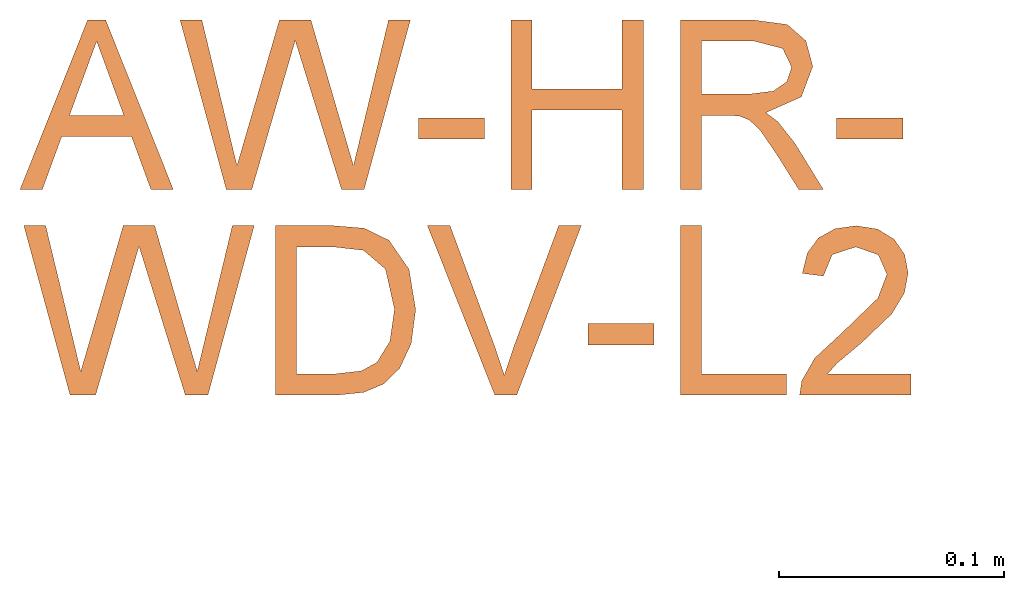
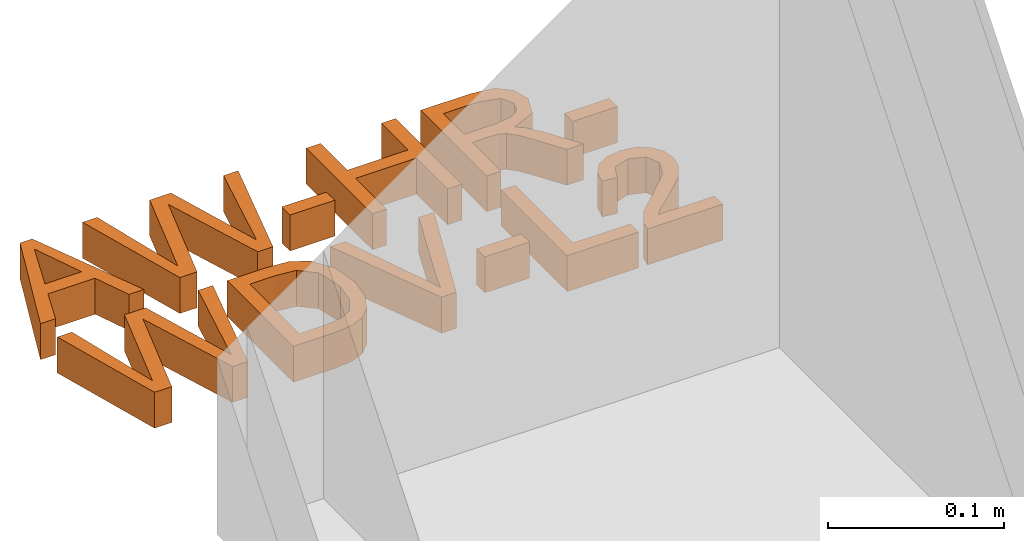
# Not in any storey, part 2 of 2: 1 proxy.
"""IFC4 model written with IfcOpenShell, lengths in metres."""

from ifc_helpers import new_model, entity, si_unit, converted_unit, derived_unit, direction, frame, origin, place, context, subcontext, project, spatial, indexed_curve, outline, extrude, type_object, element, save


model = new_model("IFC4")

# Units and contexts
model_context = context("Model", 3, precision=1e-05, world=origin(), true_north=direction((6.123031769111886e-17, 1.0)))
body_context = subcontext(model_context, "Body", "Model", "MODEL_VIEW")
ifc_project = project(units=[si_unit("LENGTHUNIT", "METRE"), si_unit("AREAUNIT", "SQUARE_METRE"), si_unit("VOLUMEUNIT", "CUBIC_METRE"), converted_unit("PLANEANGLEUNIT", "DEGREE", entity("IfcRatioMeasure", 0.017453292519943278), si_unit("PLANEANGLEUNIT", "RADIAN"), dimensions=[0, 0, 0, 0, 0, 0, 0]), si_unit("MASSUNIT", "GRAM", prefix="KILO"), derived_unit("MASSDENSITYUNIT", [(si_unit("MASSUNIT", "GRAM", prefix="KILO"), 1), (si_unit("LENGTHUNIT", "METRE"), -3)]), derived_unit("IONCONCENTRATIONUNIT", [(si_unit("MASSUNIT", "GRAM", prefix="KILO"), 1), (si_unit("LENGTHUNIT", "METRE"), -3)]), derived_unit("MOMENTOFINERTIAUNIT", [(si_unit("LENGTHUNIT", "METRE"), 4)]), si_unit("TIMEUNIT", "SECOND"), si_unit("FREQUENCYUNIT", "HERTZ"), si_unit("THERMODYNAMICTEMPERATUREUNIT", "DEGREE_CELSIUS"), derived_unit("THERMALTRANSMITTANCEUNIT", [(si_unit("MASSUNIT", "GRAM", prefix="KILO"), 1), (si_unit("THERMODYNAMICTEMPERATUREUNIT", "KELVIN"), -1), (si_unit("TIMEUNIT", "SECOND"), -3)]), derived_unit("THERMALCONDUCTANCEUNIT", [(si_unit("MASSUNIT", "GRAM", prefix="KILO"), 1), (si_unit("THERMODYNAMICTEMPERATUREUNIT", "KELVIN"), -1), (si_unit("TIMEUNIT", "SECOND"), -3), (si_unit("LENGTHUNIT", "METRE"), 1)]), derived_unit("VOLUMETRICFLOWRATEUNIT", [(si_unit("LENGTHUNIT", "METRE"), 3), (si_unit("TIMEUNIT", "SECOND"), -1)]), derived_unit("MASSFLOWRATEUNIT", [(si_unit("MASSUNIT", "GRAM", prefix="KILO"), 1), (si_unit("TIMEUNIT", "SECOND"), -1)]), derived_unit("ROTATIONALFREQUENCYUNIT", [(si_unit("TIMEUNIT", "SECOND"), -1)]), si_unit("ELECTRICCURRENTUNIT", "AMPERE"), si_unit("ELECTRICVOLTAGEUNIT", "VOLT"), si_unit("POWERUNIT", "WATT"), si_unit("FORCEUNIT", "NEWTON", prefix="KILO"), si_unit("ILLUMINANCEUNIT", "LUX"), si_unit("LUMINOUSFLUXUNIT", "LUMEN"), si_unit("LUMINOUSINTENSITYUNIT", "CANDELA"), derived_unit("USERDEFINED", [(si_unit("MASSUNIT", "GRAM", prefix="KILO"), -1), (si_unit("LENGTHUNIT", "METRE"), -2), (si_unit("TIMEUNIT", "SECOND"), 3), (si_unit("LUMINOUSFLUXUNIT", "LUMEN"), 1)]), derived_unit("USERDEFINED", [(si_unit("MASSUNIT", "GRAM", prefix="KILO"), 1), (si_unit("TIMEUNIT", "SECOND"), -3), (si_unit("LENGTHUNIT", "METRE"), 3), (si_unit("ELECTRICCURRENTUNIT", "AMPERE"), -2)]), derived_unit("SOUNDPOWERUNIT", [(si_unit("MASSUNIT", "GRAM", prefix="KILO"), 1), (si_unit("TIMEUNIT", "SECOND"), -3), (si_unit("LENGTHUNIT", "METRE"), 2)]), derived_unit("SOUNDPRESSUREUNIT", [(si_unit("MASSUNIT", "GRAM", prefix="KILO"), 1), (si_unit("LENGTHUNIT", "METRE"), -1), (si_unit("TIMEUNIT", "SECOND"), -2)]), derived_unit("LINEARVELOCITYUNIT", [(si_unit("LENGTHUNIT", "METRE"), 1), (si_unit("TIMEUNIT", "SECOND"), -1)]), si_unit("PRESSUREUNIT", "PASCAL"), derived_unit("USERDEFINED", [(si_unit("MASSUNIT", "GRAM", prefix="KILO"), 1), (si_unit("LENGTHUNIT", "METRE"), -2), (si_unit("TIMEUNIT", "SECOND"), -2)]), derived_unit("LINEARFORCEUNIT", [(si_unit("MASSUNIT", "GRAM", prefix="KILO"), 1), (si_unit("TIMEUNIT", "SECOND"), -2)]), derived_unit("PLANARFORCEUNIT", [(si_unit("MASSUNIT", "GRAM", prefix="KILO"), 1), (si_unit("LENGTHUNIT", "METRE"), -1), (si_unit("TIMEUNIT", "SECOND"), -2)]), derived_unit("SPECIFICHEATCAPACITYUNIT", [(si_unit("THERMODYNAMICTEMPERATUREUNIT", "KELVIN"), -1), (si_unit("LENGTHUNIT", "METRE"), 2), (si_unit("TIMEUNIT", "SECOND"), -2)]), derived_unit("HEATINGVALUEUNIT", [(si_unit("LENGTHUNIT", "METRE"), 2), (si_unit("TIMEUNIT", "SECOND"), -2)]), derived_unit("VAPORPERMEABILITYUNIT", [(si_unit("LENGTHUNIT", "METRE"), -1), (si_unit("TIMEUNIT", "SECOND"), 1)]), derived_unit("DYNAMICVISCOSITYUNIT", [(si_unit("MASSUNIT", "GRAM", prefix="KILO"), 1), (si_unit("TIMEUNIT", "SECOND"), -1), (si_unit("LENGTHUNIT", "METRE"), -1)]), derived_unit("THERMALEXPANSIONCOEFFICIENTUNIT", [(si_unit("THERMODYNAMICTEMPERATUREUNIT", "KELVIN"), -1)]), derived_unit("MODULUSOFELASTICITYUNIT", [(si_unit("MASSUNIT", "GRAM", prefix="KILO"), 1), (si_unit("LENGTHUNIT", "METRE"), -1), (si_unit("TIMEUNIT", "SECOND"), -2)]), derived_unit("ISOTHERMALMOISTURECAPACITYUNIT", [(si_unit("LENGTHUNIT", "METRE"), 3), (si_unit("MASSUNIT", "GRAM", prefix="KILO"), -1)]), derived_unit("MOISTUREDIFFUSIVITYUNIT", [(si_unit("TIMEUNIT", "SECOND"), -1), (si_unit("LENGTHUNIT", "METRE"), 2)])], contexts=[model_context])

# Site
site_placement = place(None, origin())
site = spatial("IfcSite", under=ifc_project, at=site_placement, Name="Default", CompositionType="ELEMENT")

# Proxy
building_element_proxy_type = type_object("IfcBuildingElementProxyType", Name="Modelltext:075mm Arial", PredefinedType="NOTDEFINED")
proxy_placement = place(site_placement, origin())
element("IfcBuildingElementProxy", 1, at=proxy_placement, inside=site, type_object=building_element_proxy_type, Name="Modelltext:075mm Arial", ObjectType="Modelltext:075mm Arial", PredefinedType="NOTDEFINED", context=body_context, shape_type="SweptSolid", body=[
    extrude(outline(indexed_curve([(-0.03408196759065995, -0.02472167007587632), (-0.0241307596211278, -0.02472167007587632), (-0.015522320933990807, -0.0011772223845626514), (0.015508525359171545, -0.0011772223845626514), (0.02413535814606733, -0.02472167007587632), (0.03408656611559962, -0.02472167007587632), (0.004012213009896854, 0.05062056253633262), (-0.0040076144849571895, 0.05062056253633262), (-0.03408196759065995, -0.02472167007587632)], self_intersect=False), holes=[indexed_curve([(-0.012064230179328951, 0.008240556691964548), (-0.004688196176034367, 0.0283820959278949), (2.2992624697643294e-06, 0.041202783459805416), (0.00528140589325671, 0.026763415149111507), (0.012068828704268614, 0.008240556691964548), (-0.012064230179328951, 0.008240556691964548)], self_intersect=False)]), frame((-0.719544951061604, 47.8784867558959, 0.0)), (0.0, 0.0, 1.0), 0.025),
    extrude(outline(indexed_curve([(-0.03048676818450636, -0.04038957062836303), (-0.019119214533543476, -0.04038957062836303), (-0.002656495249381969, 0.016080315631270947), (0.00017619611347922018, 0.025847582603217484), (0.0026961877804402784, 0.017735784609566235), (0.020759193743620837, -0.04038957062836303), (0.030820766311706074, -0.04038957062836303), (0.05138536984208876, 0.03495266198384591), (0.04167328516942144, 0.03495266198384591), (0.029643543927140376, -0.015005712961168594), (0.0260750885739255, -0.029849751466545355), (0.01800007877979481, -0.0022218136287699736), (0.007147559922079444, 0.03495266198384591), (-0.006850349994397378, 0.03495266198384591), (-0.021786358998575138, -0.016330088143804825), (-0.02572269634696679, -0.029849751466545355), (-0.02940151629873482, -0.014564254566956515), (-0.0413208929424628, 0.03495266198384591), (-0.05103297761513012, 0.03495266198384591), (-0.03048676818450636, -0.04038957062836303)], self_intersect=False)), frame((-0.6314271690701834, 47.894154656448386, 0.0)), (0.0, 0.0, 1.0), 0.025),
    extrude(outline(indexed_curve([(-0.014715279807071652, -0.004708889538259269), (0.014715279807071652, -0.004708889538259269), (0.014715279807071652, 0.004708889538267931), (-0.014715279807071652, 0.004708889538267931), (-0.014715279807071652, -0.004708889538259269)], self_intersect=False)), frame((-0.5617948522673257, 47.88084120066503, 0.0)), (0.0, 0.0, 1.0), 0.025),
    extrude(outline(indexed_curve([(-0.029430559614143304, -0.03845593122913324), (-0.02001278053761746, -0.03845593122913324), (-0.02001278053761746, -0.0031392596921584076), (0.020012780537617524, -0.0031392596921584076), (0.020012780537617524, -0.03845593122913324), (0.02943055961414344, -0.03845593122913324), (0.02943055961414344, 0.03688630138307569), (0.020012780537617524, 0.03688630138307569), (0.020012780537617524, 0.006278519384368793), (-0.02001278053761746, 0.006278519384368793), (-0.02001278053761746, 0.03688630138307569), (-0.029430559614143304, 0.03688630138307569), (-0.029430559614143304, -0.03845593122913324)], self_intersect=False)), frame((-0.5058767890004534, 47.89222101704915, 0.0)), (0.0, 0.0, 1.0), 0.025),
    extrude(outline(indexed_curve([(-0.03536314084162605, -0.033769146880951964), (-0.025945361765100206, -0.033769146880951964), (-0.025945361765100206, -0.0008069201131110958), (-0.014577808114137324, -0.0008069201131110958), (-0.00911476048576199, -0.0011380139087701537), (-0.0046357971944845, -0.0029314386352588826), (0.0003398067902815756, -0.007815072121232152), (0.007421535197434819, -0.018152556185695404), (0.0172255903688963, -0.033769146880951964), (0.028170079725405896, -0.033769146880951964), (0.01560690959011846, -0.013351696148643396), (0.007973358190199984, -0.003658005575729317), (0.0026206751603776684, 0.0003703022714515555), (0.0183936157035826, 0.007378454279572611), (0.023497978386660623, 0.02095329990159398), (0.020416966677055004, 0.03234844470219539), (0.012176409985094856, 0.039540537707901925), (-0.0028975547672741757, 0.041573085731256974), (-0.03536314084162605, 0.041573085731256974), (-0.03536314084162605, -0.033769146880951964)], self_intersect=False), holes=[indexed_curve([(-0.025945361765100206, 0.008610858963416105), (-0.025945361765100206, 0.03215530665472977), (-0.002492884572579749, 0.03215530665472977), (0.01009787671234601, 0.028899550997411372), (0.014080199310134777, 0.020603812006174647), (0.011992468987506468, 0.014211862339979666), (0.005885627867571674, 0.009944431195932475), (-0.004865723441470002, 0.008610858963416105), (-0.025945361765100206, 0.008610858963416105)], self_intersect=False)]), frame((-0.42460197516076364, 47.88753423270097, 0.0)), (0.0, 0.0, 1.0), 0.025),
    extrude(outline(indexed_curve([(-0.014715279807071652, -0.004708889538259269), (0.01471527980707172, -0.004708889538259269), (0.01471527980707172, 0.004708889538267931), (-0.014715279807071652, 0.004708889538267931), (-0.014715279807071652, -0.004708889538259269)], self_intersect=False)), frame((-0.37579371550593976, 47.88084120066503, 0.0)), (0.0, 0.0, 1.0), 0.025),
    extrude(outline(indexed_curve([(-0.03048676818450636, -0.0403895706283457), (-0.019119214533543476, -0.0403895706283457), (-0.002656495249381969, 0.016080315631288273), (0.00017619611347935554, 0.02584758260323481), (0.0026961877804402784, 0.01773578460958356), (0.020759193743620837, -0.0403895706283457), (0.030820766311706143, -0.0403895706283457), (0.05138536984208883, 0.03495266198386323), (0.04167328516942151, 0.03495266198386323), (0.029643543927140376, -0.015005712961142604), (0.0260750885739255, -0.02984975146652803), (0.01800007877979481, -0.0022218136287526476), (0.007147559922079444, 0.03495266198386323), (-0.006850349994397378, 0.03495266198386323), (-0.021786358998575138, -0.016330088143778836), (-0.02572269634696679, -0.02984975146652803), (-0.02940151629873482, -0.014564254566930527), (-0.0413208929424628, 0.03495266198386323), (-0.05103297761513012, 0.03495266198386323), (-0.03048676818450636, -0.0403895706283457)], self_intersect=False)), frame((-0.7008832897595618, 47.802673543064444, 0.0)), (0.0, 0.0, 1.0), 0.025),
    extrude(outline(indexed_curve([(-0.03902844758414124, -0.03575046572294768), (-0.011786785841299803, -0.03575046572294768), (0.00032572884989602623, -0.03446287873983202), (0.009329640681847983, -0.03068289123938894), (0.016209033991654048, -0.023849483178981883), (0.021359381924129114, -0.012877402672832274), (0.02336433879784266, 0.0023253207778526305), (0.020402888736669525, 0.020241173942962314), (0.011481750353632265, 0.03311704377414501), (0.0004085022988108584, 0.03850651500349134), (-0.013037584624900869, 0.03959176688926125), (-0.03902844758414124, 0.03959176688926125), (-0.03902844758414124, -0.03575046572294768)], self_intersect=False), holes=[indexed_curve([(-0.029610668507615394, -0.026332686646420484), (-0.029610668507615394, 0.03017398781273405), (-0.013203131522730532, 0.03017398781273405), (0.0001509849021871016, 0.02866567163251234), (0.009927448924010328, 0.020314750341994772), (0.013946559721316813, 0.0024724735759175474), (0.011895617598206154, -0.01177375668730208), (0.0061658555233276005, -0.021127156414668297), (-0.0008239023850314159, -0.024971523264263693), (-0.012945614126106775, -0.026332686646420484), (-0.029610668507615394, -0.026332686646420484)], self_intersect=False)]), frame((-0.6010516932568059, 47.79803443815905, 0.0)), (0.0, 0.0, 1.0), 0.025),
    extrude(outline(indexed_curve([(-0.00436553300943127, -0.03914673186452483), (0.005364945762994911, -0.03914673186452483), (0.03407813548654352, 0.03619550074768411), (0.023998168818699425, 0.03619550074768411), (0.0038750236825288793, -0.018085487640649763), (-0.0001348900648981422, -0.030317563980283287), (-0.004199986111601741, -0.018085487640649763), (-0.024267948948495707, 0.03619550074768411), (-0.034347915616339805, 0.03619550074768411), (-0.00436553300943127, -0.03914673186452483)], self_intersect=False)), frame((-0.538115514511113, 47.80143070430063, 0.0)), (0.0, 0.0, 1.0), 0.025),
    extrude(outline(indexed_curve([(-0.01471527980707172, -0.004708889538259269), (0.014715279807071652, -0.004708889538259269), (0.014715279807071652, 0.004708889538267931), (-0.01471527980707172, 0.004708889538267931), (-0.01471527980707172, -0.004708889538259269)], self_intersect=False)), frame((-0.4864526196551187, 47.78936008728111, 0.0)), (0.0, 0.0, 1.0), 0.025),
    extrude(outline(indexed_curve([(-0.01883555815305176, -0.028253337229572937), (0.028253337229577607, -0.028253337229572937), (0.028253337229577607, -0.018835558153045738), (-0.009417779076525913, -0.018835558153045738), (-0.009417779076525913, 0.047088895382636), (-0.01883555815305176, 0.047088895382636), (-0.01883555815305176, -0.028253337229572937)], self_intersect=False)), frame((-0.44112955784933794, 47.79053730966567, 0.0)), (0.0, 0.0, 1.0), 0.025),
    extrude(outline(indexed_curve([(-0.024289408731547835, -0.03387521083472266), (-0.024289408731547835, -0.04329298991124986), (0.025153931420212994, -0.04329298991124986), (0.024142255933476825, -0.036799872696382), (0.018421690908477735, -0.026802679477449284), (0.006631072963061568, -0.015885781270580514), (-0.009629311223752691, -0.00019561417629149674), (-0.013694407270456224, 0.010472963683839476), (-0.009859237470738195, 0.0191089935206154), (0.00015634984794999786, 0.02263146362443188), (0.010595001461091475, 0.019191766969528), (0.014558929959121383, 0.009682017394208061), (0.023976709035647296, 0.010859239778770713), (0.021693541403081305, 0.019968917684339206), (0.01675702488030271, 0.02662298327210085), (0.009424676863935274, 0.030692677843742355), (-4.5985249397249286e-05, 0.032049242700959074), (-0.00958562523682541, 0.030540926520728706), (-0.01690417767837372, 0.026015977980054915), (-0.021560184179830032, 0.01925614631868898), (-0.023112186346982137, 0.011043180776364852), (-0.02143832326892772, 0.0021128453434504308), (-0.015874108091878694, -0.007120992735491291), (-0.0023820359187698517, -0.020024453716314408), (0.008452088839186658, -0.029083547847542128), (0.012701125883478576, -0.03387521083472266), (-0.024289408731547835, -0.03387521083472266)], self_intersect=False)), frame((-0.38183617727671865, 47.80557696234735, 0.0), z_axis=(0.0, 0.0, -1.0), x_axis=(-1.0, 0.0, 0.0)), (0.0, 0.0, -1.0), 0.025),
])

save(model, "model.ifc")
